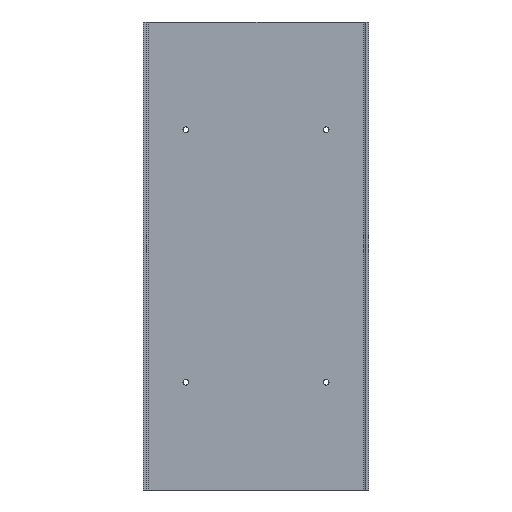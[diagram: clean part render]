
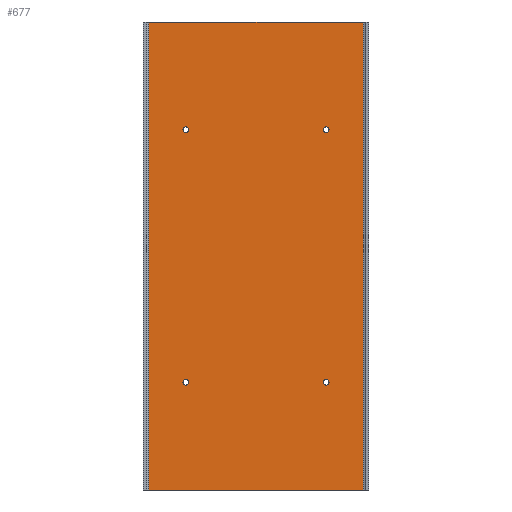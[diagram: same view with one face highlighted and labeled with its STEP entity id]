
A CAD part, front view. The second image highlights one B-rep face of the part: STEP entity #677.
In plain terms, the highlighted planar face has unit normal (0, -1, 0).
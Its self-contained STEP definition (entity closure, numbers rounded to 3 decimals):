
#2 = EDGE_CURVE ( 'NONE', #678, #710, #445, .T. ) ;
#5 = CARTESIAN_POINT ( 'NONE',  ( 3., 120., 0. ) ) ;
#32 = LINE ( 'NONE', #307, #698 ) ;
#33 = CARTESIAN_POINT ( 'NONE',  ( 192.5, 120., 388. ) ) ;
#41 = EDGE_LOOP ( 'NONE', ( #290, #507 ) ) ;
#44 = VERTEX_POINT ( 'NONE', #96 ) ;
#51 = ORIENTED_EDGE ( 'NONE', *, *, #664, .F. ) ;
#58 = CARTESIAN_POINT ( 'NONE',  ( 42.5, 120., 385. ) ) ;
#63 = EDGE_CURVE ( 'NONE', #119, #44, #638, .T. ) ;
#69 = DIRECTION ( 'NONE',  ( 0., 0., -1. ) ) ;
#79 = ORIENTED_EDGE ( 'NONE', *, *, #63, .T. ) ;
#88 = ORIENTED_EDGE ( 'NONE', *, *, #729, .F. ) ;
#91 = PLANE ( 'NONE',  #208 ) ;
#95 = DIRECTION ( 'NONE',  ( 0., -1., 0. ) ) ;
#96 = CARTESIAN_POINT ( 'NONE',  ( 232., 120., 500. ) ) ;
#98 = FACE_BOUND ( 'NONE', #263, .T. ) ;
#107 = LINE ( 'NONE', #135, #767 ) ;
#111 = DIRECTION ( 'NONE',  ( -1., 0., 0. ) ) ;
#118 = LINE ( 'NONE', #582, #706 ) ;
#119 = VERTEX_POINT ( 'NONE', #535 ) ;
#123 = VERTEX_POINT ( 'NONE', #470 ) ;
#135 = CARTESIAN_POINT ( 'NONE',  ( 3., 120., 0. ) ) ;
#142 = DIRECTION ( 'NONE',  ( 0., -1., 0. ) ) ;
#143 = CARTESIAN_POINT ( 'NONE',  ( 192.5, 120., 112. ) ) ;
#173 = CARTESIAN_POINT ( 'NONE',  ( 192.5, 120., 382. ) ) ;
#179 = DIRECTION ( 'NONE',  ( 0., 0., -1. ) ) ;
#183 = CARTESIAN_POINT ( 'NONE',  ( 192.5, 120., 115. ) ) ;
#208 = AXIS2_PLACEMENT_3D ( 'NONE', #785, #345, #725 ) ;
#209 = DIRECTION ( 'NONE',  ( 0., -1., 0. ) ) ;
#212 = DIRECTION ( 'NONE',  ( -1., 0., 0. ) ) ;
#223 = DIRECTION ( 'NONE',  ( 0., 0., -1. ) ) ;
#242 = ORIENTED_EDGE ( 'NONE', *, *, #770, .T. ) ;
#245 = CARTESIAN_POINT ( 'NONE',  ( 192.5, 120., 385. ) ) ;
#247 = EDGE_CURVE ( 'NONE', #44, #314, #118, .T. ) ;
#248 = AXIS2_PLACEMENT_3D ( 'NONE', #583, #142, #523 ) ;
#254 = FACE_OUTER_BOUND ( 'NONE', #826, .T. ) ;
#263 = EDGE_LOOP ( 'NONE', ( #604, #358 ) ) ;
#267 = CARTESIAN_POINT ( 'NONE',  ( 42.5, 120., 388. ) ) ;
#273 = FACE_BOUND ( 'NONE', #41, .T. ) ;
#279 = VERTEX_POINT ( 'NONE', #333 ) ;
#285 = AXIS2_PLACEMENT_3D ( 'NONE', #245, #621, #179 ) ;
#290 = ORIENTED_EDGE ( 'NONE', *, *, #516, .F. ) ;
#298 = ORIENTED_EDGE ( 'NONE', *, *, #532, .F. ) ;
#307 = CARTESIAN_POINT ( 'NONE',  ( 0., 120., 0. ) ) ;
#308 = EDGE_LOOP ( 'NONE', ( #88, #494 ) ) ;
#314 = VERTEX_POINT ( 'NONE', #325 ) ;
#319 = VECTOR ( 'NONE', #737, 1000. ) ;
#324 = CARTESIAN_POINT ( 'NONE',  ( 192.5, 120., 118. ) ) ;
#325 = CARTESIAN_POINT ( 'NONE',  ( 3., 120., 500. ) ) ;
#326 = VERTEX_POINT ( 'NONE', #5 ) ;
#333 = CARTESIAN_POINT ( 'NONE',  ( 42.5, 120., 382. ) ) ;
#345 = DIRECTION ( 'NONE',  ( 0., -1., 0. ) ) ;
#353 = CIRCLE ( 'NONE', #636, 3. ) ;
#358 = ORIENTED_EDGE ( 'NONE', *, *, #641, .F. ) ;
#367 = AXIS2_PLACEMENT_3D ( 'NONE', #814, #369, #756 ) ;
#369 = DIRECTION ( 'NONE',  ( 0., -1., 0. ) ) ;
#384 = EDGE_CURVE ( 'NONE', #279, #766, #353, .T. ) ;
#392 = CIRCLE ( 'NONE', #367, 3. ) ;
#410 = AXIS2_PLACEMENT_3D ( 'NONE', #648, #209, #577 ) ;
#416 = FACE_BOUND ( 'NONE', #442, .T. ) ;
#418 = DIRECTION ( 'NONE',  ( 0., -1., 0. ) ) ;
#424 = VERTEX_POINT ( 'NONE', #565 ) ;
#438 = DIRECTION ( 'NONE',  ( 0., -1., 0. ) ) ;
#442 = EDGE_LOOP ( 'NONE', ( #660, #51 ) ) ;
#443 = CIRCLE ( 'NONE', #410, 3. ) ;
#445 = CIRCLE ( 'NONE', #778, 3. ) ;
#470 = CARTESIAN_POINT ( 'NONE',  ( 42.5, 120., 112. ) ) ;
#478 = DIRECTION ( 'NONE',  ( 0., 0., -1. ) ) ;
#494 = ORIENTED_EDGE ( 'NONE', *, *, #384, .F. ) ;
#507 = ORIENTED_EDGE ( 'NONE', *, *, #511, .F. ) ;
#511 = EDGE_CURVE ( 'NONE', #599, #645, #392, .T. ) ;
#516 = EDGE_CURVE ( 'NONE', #645, #599, #540, .T. ) ;
#523 = DIRECTION ( 'NONE',  ( 0., 0., -1. ) ) ;
#532 = EDGE_CURVE ( 'NONE', #119, #326, #32, .T. ) ;
#535 = CARTESIAN_POINT ( 'NONE',  ( 232., 120., 0. ) ) ;
#540 = CIRCLE ( 'NONE', #285, 3. ) ;
#565 = CARTESIAN_POINT ( 'NONE',  ( 42.5, 120., 118. ) ) ;
#577 = DIRECTION ( 'NONE',  ( 0., 0., -1. ) ) ;
#582 = CARTESIAN_POINT ( 'NONE',  ( 0., 120., 500. ) ) ;
#583 = CARTESIAN_POINT ( 'NONE',  ( 42.5, 120., 385. ) ) ;
#585 = FACE_BOUND ( 'NONE', #308, .T. ) ;
#599 = VERTEX_POINT ( 'NONE', #173 ) ;
#600 = AXIS2_PLACEMENT_3D ( 'NONE', #629, #665, #223 ) ;
#604 = ORIENTED_EDGE ( 'NONE', *, *, #2, .F. ) ;
#610 = DIRECTION ( 'NONE',  ( 0., 0., -1. ) ) ;
#621 = DIRECTION ( 'NONE',  ( 0., -1., 0. ) ) ;
#628 = CIRCLE ( 'NONE', #693, 3. ) ;
#629 = CARTESIAN_POINT ( 'NONE',  ( 42.5, 120., 115. ) ) ;
#636 = AXIS2_PLACEMENT_3D ( 'NONE', #58, #438, #827 ) ;
#638 = LINE ( 'NONE', #800, #319 ) ;
#641 = EDGE_CURVE ( 'NONE', #710, #678, #628, .T. ) ;
#645 = VERTEX_POINT ( 'NONE', #33 ) ;
#648 = CARTESIAN_POINT ( 'NONE',  ( 42.5, 120., 115. ) ) ;
#660 = ORIENTED_EDGE ( 'NONE', *, *, #751, .F. ) ;
#664 = EDGE_CURVE ( 'NONE', #123, #424, #780, .T. ) ;
#665 = DIRECTION ( 'NONE',  ( 0., -1., 0. ) ) ;
#677 = ADVANCED_FACE ( 'NONE', ( #585, #273, #98, #416, #254 ), #91, .T. ) ;
#678 = VERTEX_POINT ( 'NONE', #324 ) ;
#693 = AXIS2_PLACEMENT_3D ( 'NONE', #183, #95, #478 ) ;
#698 = VECTOR ( 'NONE', #111, 1000. ) ;
#706 = VECTOR ( 'NONE', #212, 1000. ) ;
#710 = VERTEX_POINT ( 'NONE', #143 ) ;
#725 = DIRECTION ( 'NONE',  ( 0., 0., -1. ) ) ;
#729 = EDGE_CURVE ( 'NONE', #766, #279, #829, .T. ) ;
#737 = DIRECTION ( 'NONE',  ( 0., 0., 1. ) ) ;
#748 = CARTESIAN_POINT ( 'NONE',  ( 192.5, 120., 115. ) ) ;
#751 = EDGE_CURVE ( 'NONE', #424, #123, #443, .T. ) ;
#756 = DIRECTION ( 'NONE',  ( 0., 0., -1. ) ) ;
#766 = VERTEX_POINT ( 'NONE', #267 ) ;
#767 = VECTOR ( 'NONE', #69, 1000. ) ;
#770 = EDGE_CURVE ( 'NONE', #314, #326, #107, .T. ) ;
#778 = AXIS2_PLACEMENT_3D ( 'NONE', #748, #418, #610 ) ;
#780 = CIRCLE ( 'NONE', #600, 3. ) ;
#785 = CARTESIAN_POINT ( 'NONE',  ( 0., 120., 500. ) ) ;
#800 = CARTESIAN_POINT ( 'NONE',  ( 232., 120., 500. ) ) ;
#814 = CARTESIAN_POINT ( 'NONE',  ( 192.5, 120., 385. ) ) ;
#824 = ORIENTED_EDGE ( 'NONE', *, *, #247, .T. ) ;
#826 = EDGE_LOOP ( 'NONE', ( #298, #79, #824, #242 ) ) ;
#827 = DIRECTION ( 'NONE',  ( 0., 0., -1. ) ) ;
#829 = CIRCLE ( 'NONE', #248, 3. ) ;
